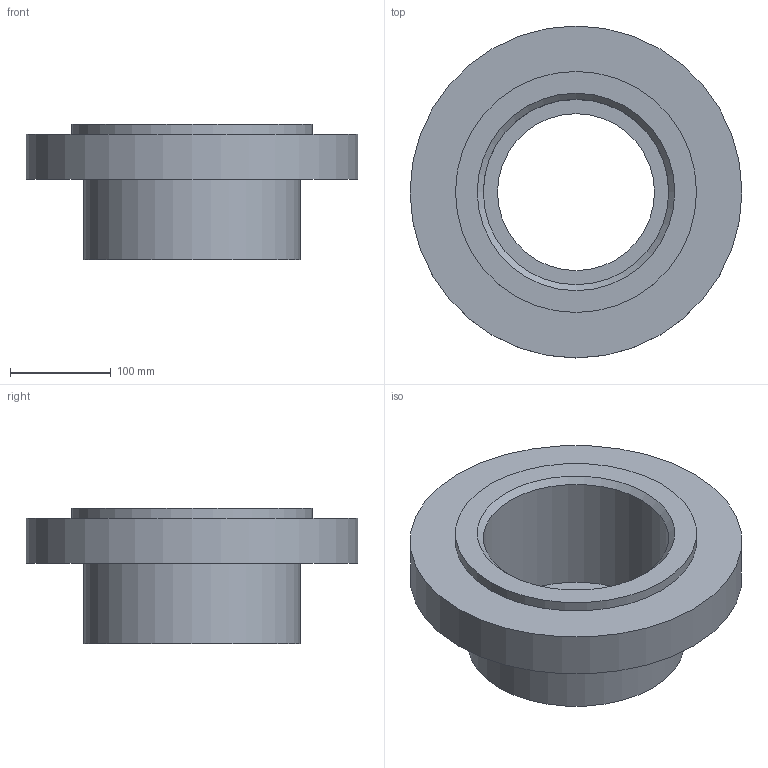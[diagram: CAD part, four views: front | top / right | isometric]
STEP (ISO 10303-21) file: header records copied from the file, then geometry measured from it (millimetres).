
FILE_DESCRIPTION(/* description */ ('Alibre Inc.'),/* implementation_level */ '2;1');
FILE_NAME(/* name */ 'export-3158BB30-1093-4160-832C-EC1E369328C0',/* time_stamp */ '2025-04-15T10:57:12+08:00',/* author */ (''),/* organization */ (''),/* preprocessor_version */ 'ST-DEVELOPER v17',/* originating_system */ 'Alibre',/* authorisation */ '');
FILE_SCHEMA (('CONFIG_CONTROL_DESIGN'));
Length unit declared in the file: centimetre
Bounding box: 330 x 330 x 135 mm (x, y, z)
Volume: 3667996.7 mm3; surface area: 316324.7 mm2
Topology: 1 solids, 1 shells, 11 faces, 18 edges, 12 vertices
Faces by surface type: cylinder 5, plane 5, cone 1
Full cylindrical faces by diameter (mm): 156.03 x1, 184.3 x1, 215 x1, 239.7 x1, 330 x1
Entity records: 308 total; most frequent: DIRECTION 39, CARTESIAN_POINT 33, ORIENTED_EDGE 22, EDGE_LOOP 22, FACE_BOUND 22, AXIS2_PLACEMENT_3D 22, VERTEX_POINT 11, CIRCLE 11
